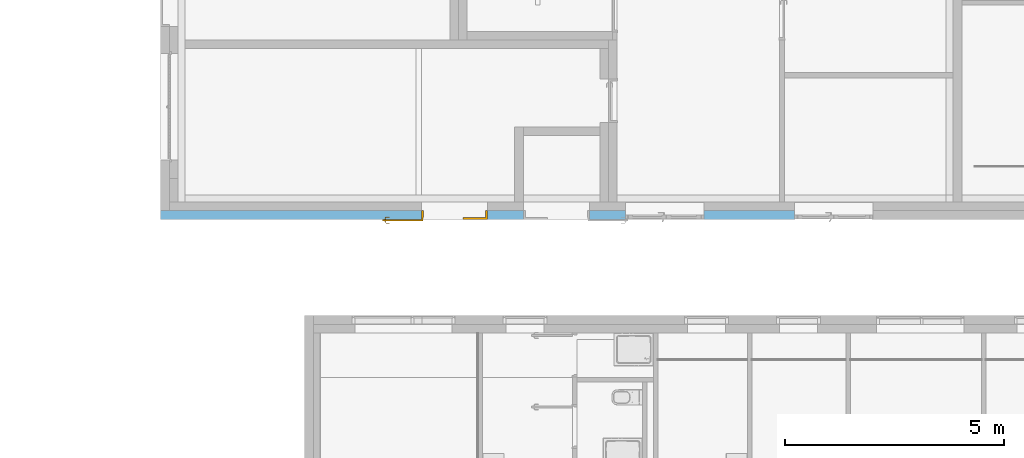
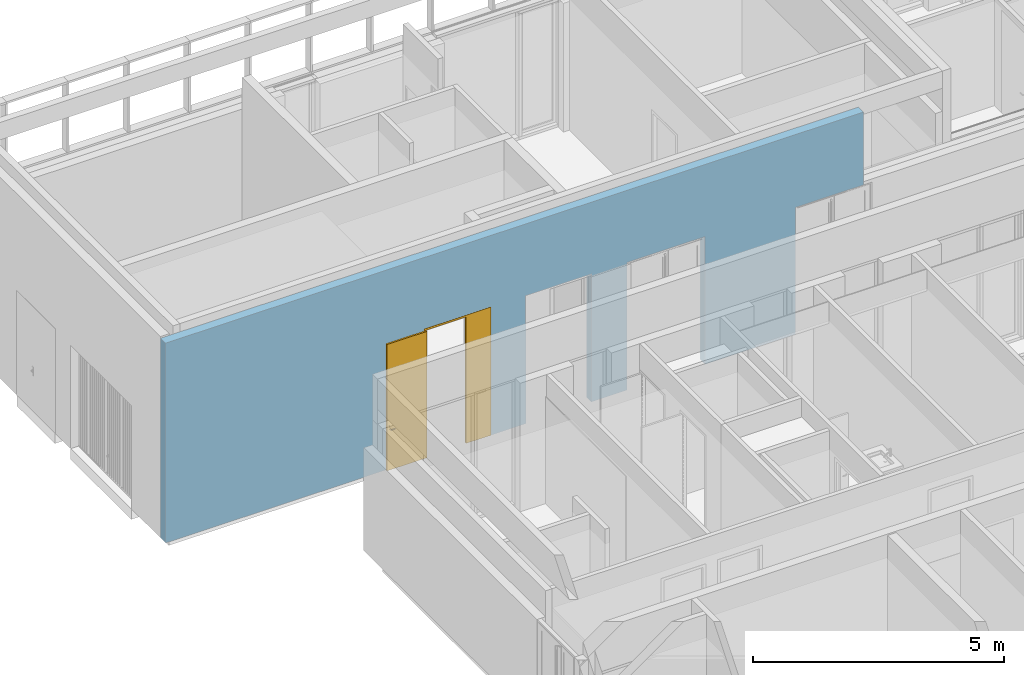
# One storey, part 206 of 240: 1 door, 10 openings, plus 1 element that does not belong to this part.
"""IFC2X3 building model written with IfcOpenShell, lengths in centimetres."""

from ifc_helpers import new_model, entity, si_unit, converted_unit, derived_unit, direction, frame, frame_2d, origin, place, context, subcontext, project, spatial, rectangle, extrude, faceted_brep, source, transform, mapped, material, material_list, layer, layer_set, layer_usage, type_object, type_shapes, element, fill, save


model = new_model("IFC2X3")

# Units and contexts
model_context = context("Model", 3, precision=0.001, world=origin(), true_north=direction((6.12303176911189e-17, 1.0)))
body_context = subcontext(model_context, "Body", "Model", "MODEL_VIEW")
ifc_project = project(units=[si_unit("LENGTHUNIT", "METRE", prefix="CENTI"), si_unit("AREAUNIT", "SQUARE_METRE"), si_unit("VOLUMEUNIT", "CUBIC_METRE"), converted_unit("PLANEANGLEUNIT", "DEGREE", entity("IfcRatioMeasure", 0.0174532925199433), si_unit("PLANEANGLEUNIT", "RADIAN"), dimensions=[0, 0, 0, 0, 0, 0, 0]), si_unit("MASSUNIT", "GRAM", prefix="KILO"), derived_unit("MASSDENSITYUNIT", [(si_unit("MASSUNIT", "GRAM", prefix="KILO"), 1), (si_unit("LENGTHUNIT", "METRE"), -3)]), si_unit("TIMEUNIT", "SECOND"), si_unit("FREQUENCYUNIT", "HERTZ"), si_unit("THERMODYNAMICTEMPERATUREUNIT", "DEGREE_CELSIUS"), derived_unit("THERMALTRANSMITTANCEUNIT", [(si_unit("MASSUNIT", "GRAM", prefix="KILO"), 1), (si_unit("THERMODYNAMICTEMPERATUREUNIT", "KELVIN"), -1), (si_unit("TIMEUNIT", "SECOND"), -3)]), derived_unit("VOLUMETRICFLOWRATEUNIT", [(si_unit("LENGTHUNIT", "METRE"), 3), (si_unit("TIMEUNIT", "SECOND"), -1)]), si_unit("ELECTRICCURRENTUNIT", "AMPERE"), si_unit("ELECTRICVOLTAGEUNIT", "VOLT"), si_unit("POWERUNIT", "WATT"), si_unit("FORCEUNIT", "NEWTON", prefix="KILO"), si_unit("ILLUMINANCEUNIT", "LUX"), si_unit("LUMINOUSFLUXUNIT", "LUMEN"), si_unit("LUMINOUSINTENSITYUNIT", "CANDELA"), derived_unit("USERDEFINED", [(si_unit("MASSUNIT", "GRAM", prefix="KILO"), -1), (si_unit("LENGTHUNIT", "METRE"), -2), (si_unit("TIMEUNIT", "SECOND"), 3), (si_unit("LUMINOUSFLUXUNIT", "LUMEN"), 1)]), derived_unit("LINEARVELOCITYUNIT", [(si_unit("LENGTHUNIT", "METRE"), 1), (si_unit("TIMEUNIT", "SECOND"), -1)]), si_unit("PRESSUREUNIT", "PASCAL"), derived_unit("USERDEFINED", [(si_unit("LENGTHUNIT", "METRE"), -2), (si_unit("MASSUNIT", "GRAM", prefix="KILO"), 1), (si_unit("TIMEUNIT", "SECOND"), -2)])], contexts=[model_context])

# Site, building, storey
site_placement = place(None, frame((-2781.94577612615, 7442.24238424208, 0.0)))
site = spatial("IfcSite", under=ifc_project, at=site_placement, Name="Default", CompositionType="ELEMENT")
building_placement = place(site_placement, origin())
building = spatial("IfcBuilding", under=site, at=building_placement, CompositionType="ELEMENT")
storey_placement = place(building_placement, origin())
storey = spatial("IfcBuildingStorey", under=building, at=storey_placement, Name="N00 - COO", CompositionType="ELEMENT", Elevation=0.0)

# Wall, openings, door
ifc_material_1 = material(Name="Aluminium bardage")
ifc_layer_1 = layer(ifc_material_1, 0.5)
ifc_material_2 = material(Name="01 - Lame d'air")
ifc_layer_2 = layer(ifc_material_2, 1.5)
ifc_material_3 = material(Name="00 - Isolant")
ifc_layer_3 = layer(ifc_material_3, 18.0)
ifc_layer_set = layer_set([ifc_layer_1, ifc_layer_2, ifc_layer_3], Name="Mur de base:04 - Parement - ITE 18cm + vide 2cm")
ifc_layer_usage = layer_usage(ifc_layer_set, "AXIS2", "POSITIVE", -10.0)
wall_type = type_object("IfcWallType", Name="Mur de base:04 - Parement - ITE 18cm + vide 2cm", PredefinedType="STANDARD", material=ifc_layer_set)
wall_placement = place(building_placement, frame((-11230.6616968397, -840.048500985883, 0.0)))
wall = element("IfcWallStandardCase", 1, at=wall_placement, inside=storey, type_object=wall_type, material=ifc_layer_usage, Name="Mur de base:04 - Parement - ITE 18cm + vide 2cm", ObjectType="Mur de base:04 - Parement - ITE 18cm + vide 2cm", context=body_context, shape_type="SweptSolid", body=[
    extrude(rectangle(XDim=1606.16181917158, YDim=20.0, at=frame_2d((803.080909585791, 2.04281036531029e-14), x_axis=(-1.0, 0.0))), origin(), (0.0, 0.0, 1.0), 486.0),
])
opening_1_placement = place(wall_placement, origin())
element("IfcOpeningElement", 2, at=opening_1_placement, cuts=wall, Name="Mur de base:04 - Parement - ITE 18cm + vide 2cm", ObjectType="Opening", context=body_context, shape_type="SweptSolid", body=[
    extrude(rectangle(XDim=310.999999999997, YDim=99.9999999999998, at=frame_2d((-8.66862137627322e-13, 0.0), x_axis=(0.0, 1.0))), frame((2089.66181923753, -25.24, 155.499999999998), z_axis=(0.0, 1.0, 0.0), x_axis=(-1.0, 0.0, 0.0)), (0.0, 0.0, 1.0), 50.48),
])
opening_2_placement = place(wall_placement, origin())
element("IfcOpeningElement", 3, at=opening_2_placement, cuts=wall, Name="Mur de base:04 - Parement - ITE 18cm + vide 2cm", ObjectType="Opening", context=body_context, shape_type="SweptSolid", body=[
    extrude(rectangle(XDim=224.0, YDim=91.9999999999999, at=frame_2d((2.1316282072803e-14, 0.0), x_axis=(1.0, 0.0))), frame((2591.66181917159, -142.4, 197.700000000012), z_axis=(0.0, 1.0, 0.0), x_axis=(0.0, 0.0, 1.0)), (0.0, 0.0, 1.0), 304.8),
])
opening_3_placement = place(wall_placement, origin())
element("IfcOpeningElement", 4, at=opening_3_placement, cuts=wall, Name="Mur de base:04 - Parement - ITE 18cm + vide 2cm", ObjectType="Opening", context=body_context, shape_type="SweptSolid", body=[
    extrude(rectangle(XDim=316.500000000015, YDim=99.9999999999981, at=frame_2d((0.0, 0.0), x_axis=(0.0, 1.0))), frame((2591.7151206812, -25.2399999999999, 158.250000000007), z_axis=(0.0, 1.0, 0.0), x_axis=(-1.0, 0.0, 0.0)), (0.0, 0.0, 1.0), 50.48),
])
opening_4_placement = place(wall_placement, origin())
element("IfcOpeningElement", 5, at=opening_4_placement, cuts=wall, Name="Mur de base:04 - Parement - ITE 18cm + vide 2cm", ObjectType="Opening", context=body_context, shape_type="SweptSolid", body=[
    extrude(rectangle(XDim=310.999999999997, YDim=99.9999999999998, at=frame_2d((-8.66862137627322e-13, 0.0), x_axis=(0.0, 1.0))), frame((2348.66181917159, -25.2400000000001, 155.499999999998), z_axis=(0.0, 1.0, 0.0), x_axis=(-1.0, 0.0, 0.0)), (0.0, 0.0, 1.0), 50.48),
])
opening_5_placement = place(wall_placement, origin())
element("IfcOpeningElement", 6, at=opening_5_placement, cuts=wall, Name="Mur de base:04 - Parement - ITE 18cm + vide 2cm", ObjectType="Opening", context=body_context, shape_type="SweptSolid", body=[
    extrude(rectangle(XDim=224.0, YDim=91.9999999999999, at=frame_2d((-7.105427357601e-15, 0.0), x_axis=(1.0, 0.0))), frame((2348.60851766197, -142.4, 192.0), z_axis=(0.0, 1.0, 0.0), x_axis=(0.0, 0.0, 1.0)), (0.0, 0.0, 1.0), 304.8),
])
opening_6_placement = place(wall_placement, origin())
element("IfcOpeningElement", 7, at=opening_6_placement, cuts=wall, Name="Mur de base:04 - Parement - ITE 18cm + vide 2cm", ObjectType="Opening", context=body_context, shape_type="SweptSolid", body=[
    extrude(rectangle(XDim=224.0, YDim=91.9999999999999, at=frame_2d((-7.105427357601e-15, 0.0), x_axis=(1.0, 0.0))), frame((2089.60851772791, -142.4, 192.0), z_axis=(0.0, 1.0, 0.0), x_axis=(0.0, 0.0, 1.0)), (0.0, 0.0, 1.0), 304.8),
])
opening_7_placement = place(wall_placement, frame((747.161819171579, 10.0, 0.0)))
opening_7 = element("IfcOpeningElement", 8, at=opening_7_placement, cuts=wall, Name="Int. Tierce:PP (1.80m x 3.11m):1", ObjectType="Opening", context=body_context, shape_type="SweptSolid", body=[
    extrude(rectangle(XDim=311.000000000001, YDim=151.0, at=frame_2d((155.500000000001, 75.5000000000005), x_axis=(1.0, 0.0))), frame((0.0, 0.0, 0.0), z_axis=(0.0, -1.0, 0.0), x_axis=(0.0, 0.0, 1.0)), (0.0, 0.0, 1.0), 20.0),
])
opening_8_placement = place(wall_placement, frame((11230.6616968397, 840.048500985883, 0.0)))
element("IfcOpeningElement", 9, at=opening_8_placement, cuts=wall, Name="Mur de base:04 - Parement - ITE 18cm + vide 2cm", ObjectType="Opening", context=body_context, shape_type="SweptSolid", body=[
    extrude(rectangle(XDim=326.0, YDim=179.999999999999, at=frame_2d((0.0, 8.66862137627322e-13), x_axis=(1.0, 0.0))), frame((-10078.6616968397, -850.148500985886, 148.0), z_axis=(0.0, 1.0, 0.0), x_axis=(0.0, 0.0, -1.0)), (0.0, 0.0, 1.0), 61.3),
])
opening_9_placement = place(wall_placement, frame((1448.16181917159, -10.1000000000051, -15.0)))
element("IfcOpeningElement", 10, at=opening_9_placement, cuts=wall, Name="Mur de base:04 - Parement - ITE 18cm + vide 2cm", ObjectType="Opening", context=body_context, shape_type="Brep", body=[
    faceted_brep([(178.0, 0.0, 324.0), (2.0, 0.0, 324.0), (2.0, 0.0, 0.0), (178.0, 0.0, 0.0), (178.0, 1.2999999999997, 0.0), (178.0, 1.29999999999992, 324.0), (2.0, 1.30000000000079, 0.0), (0.0, 1.30000000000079, 0.0), (0.0, 61.3000000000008, 0.0), (180.0, 61.2999999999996, 0.0), (180.0, 1.2999999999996, 0.0), (2.0, 1.30000000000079, 324.0), (0.0, 61.3000000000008, 326.0), (180.0, 61.2999999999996, 326.0), (0.0, 1.30000000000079, 326.0), (180.0, 1.2999999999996, 326.0)], [[[0, 1, 2, 3]], [[3, 4, 5, 0]], [[2, 6, 7, 8, 9, 10, 4, 3]], [[1, 11, 6, 2]], [[0, 5, 11, 1]], [[12, 13, 9, 8]], [[14, 7, 6, 11, 5, 4, 10, 15]], [[8, 7, 14, 12]], [[13, 15, 10, 9]], [[12, 14, 15, 13]]]),
])
opening_10_placement = place(wall_placement, frame((980.080909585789, 10.0, 0.0)))
element("IfcOpeningElement", 11, at=opening_10_placement, cuts=wall, Name="Int. Tierce:PP (1.80m x 3.11m):1", ObjectType="Opening", context=body_context, shape_type="SweptSolid", body=[
    extrude(rectangle(XDim=311.000000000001, YDim=151.0, at=frame_2d((155.500000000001, 75.4999999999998), x_axis=(1.0, 0.0))), frame((0.0, 0.0, 0.0), z_axis=(0.0, -1.0, 0.0), x_axis=(0.0, 0.0, 1.0)), (0.0, 0.0, 1.0), 20.0),
])
ifc_material_4 = material(Name="Finition Peinture - Blanc satiné")
ifc_material_5 = material(Name="Bois - Panneau de porte")
ifc_material_6 = material(Name="Bois - Cadre de porte")
ifc_material_list_1 = material_list([ifc_material_4, ifc_material_5, ifc_material_6])
ifc_material_list_2 = material_list([ifc_material_4, ifc_material_5, ifc_material_6])
door_style = type_object("IfcDoorStyle", Name="PP (1.80m x 3.11m)", ConstructionType="NOTDEFINED", OperationType="DOUBLE_DOOR_SINGLE_SWING", ParameterTakesPrecedence=False, Sizeable=False, material=ifc_material_list_2)
shared_shape = source(origin(), body_context, "Body", "Brep", [
    faceted_brep([(-84.4999999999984, 0.499999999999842, 87.0), (-84.4999999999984, 0.499999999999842, 108.0), (-83.5352761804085, 0.499999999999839, 108.399601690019), (-82.4999999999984, 0.499999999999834, 108.535898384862), (-81.4647238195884, 0.49999999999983, 108.399601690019), (-80.4999999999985, 0.499999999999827, 108.0), (-80.4999999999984, 0.499999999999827, 87.0), (-81.4647238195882, 0.49999999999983, 86.6003983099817), (-82.4999999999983, 0.499999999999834, 86.464101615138), (-83.5352761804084, 0.499999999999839, 86.6003983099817), (-84.4999999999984, 0.0, 108.0), (-84.4999999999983, 0.0, 87.0), (-83.5352761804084, 0.0, 86.6003983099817), (-82.4999999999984, 0.0, 86.464101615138), (-81.4647238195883, 0.0, 86.6003983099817), (-80.4999999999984, 0.0, 87.0), (-80.4999999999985, 0.0, 108.0), (-81.4647238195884, 0.0, 108.399601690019), (-82.4999999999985, 0.0, 108.535898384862), (-83.5352761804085, 0.0, 108.399601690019)], [[[0, 1, 2, 3, 4, 5, 6, 7, 8, 9]], [[10, 11, 12, 13, 14, 15, 16, 17, 18, 19]], [[9, 12, 11, 0]], [[8, 13, 12, 9]], [[7, 14, 13, 8]], [[7, 6, 15, 14]], [[15, 6, 5, 16]], [[4, 17, 16, 5]], [[3, 18, 17, 4]], [[2, 19, 18, 3]], [[2, 1, 10, 19]], [[11, 10, 1, 0]]]),
    faceted_brep([(-84.4999999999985, -4.0, 87.0), (-84.4999999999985, -4.0, 108.0), (-83.5352761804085, -4.0, 108.399601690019), (-82.4999999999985, -4.0, 108.535898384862), (-81.4647238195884, -4.0, 108.399601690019), (-80.4999999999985, -4.0, 108.0), (-80.4999999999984, -4.0, 87.0), (-81.4647238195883, -4.0, 86.6003983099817), (-82.4999999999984, -4.0, 86.464101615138), (-83.5352761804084, -4.0, 86.6003983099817), (-82.4999999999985, -4.50000000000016, 108.535898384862), (-83.5352761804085, -4.50000000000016, 108.399601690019), (-84.4999999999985, -4.50000000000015, 108.0), (-84.4999999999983, -4.50000000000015, 87.0), (-83.5352761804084, -4.50000000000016, 86.6003983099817), (-82.4999999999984, -4.50000000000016, 86.464101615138), (-81.4647238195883, -4.50000000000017, 86.6003983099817), (-80.4999999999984, -4.50000000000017, 87.0), (-80.4999999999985, -4.50000000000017, 108.0), (-81.4647238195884, -4.50000000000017, 108.399601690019)], [[[0, 1, 2, 3, 4, 5, 6, 7, 8, 9]], [[10, 11, 12, 13, 14, 15, 16, 17, 18, 19]], [[4, 19, 18, 5]], [[3, 10, 19, 4]], [[2, 11, 10, 3]], [[2, 1, 12, 11]], [[13, 12, 1, 0]], [[9, 14, 13, 0]], [[8, 15, 14, 9]], [[7, 16, 15, 8]], [[7, 6, 17, 16]], [[17, 6, 5, 18]]]),
    faceted_brep([(-82.2974701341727, 0.499999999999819, 100.778044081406), (-82.7025298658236, 0.499999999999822, 100.778044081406), (-83.1000000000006, 0.499999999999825, 100.699999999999), (-83.1000000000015, 0.499999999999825, 99.2999999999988), (-82.7025298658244, 0.499999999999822, 99.221955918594), (-82.2974701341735, 0.499999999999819, 99.2219559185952), (-81.8999999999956, 0.499999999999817, 99.3000000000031), (-81.8999999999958, 0.499999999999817, 100.7), (-82.7025298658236, 3.10045754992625, 100.778044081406), (-83.1000000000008, 3.26509507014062, 100.7), (-82.2974701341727, 2.93267631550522, 100.778044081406), (-80.9298602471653, 4.30028620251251, 100.778044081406), (-81.0976414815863, 4.70534593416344, 100.778044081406), (-81.8999999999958, 2.76803879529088, 100.7), (-81.8999999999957, 2.76803879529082, 99.3000000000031), (-82.2974701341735, 2.93267631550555, 99.2219559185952), (-82.7025298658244, 3.10045754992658, 99.221955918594), (-81.0976414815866, 4.70534593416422, 99.221955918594), (-80.9298602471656, 4.3002862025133, 99.2219559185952), (-83.1000000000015, 3.26509507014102, 99.2999999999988), (-81.2622790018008, 5.10281606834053, 100.7), (-80.765222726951, 3.90281606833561, 100.7), (-80.7652227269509, 3.90281606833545, 99.3000000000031), (-81.262279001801, 5.10281606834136, 99.2999999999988), (-72.4981359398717, 5.10281606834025, 100.7), (-72.4981359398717, 4.70534593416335, 100.778044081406), (-72.4981359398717, 4.30028620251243, 100.778044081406), (-72.4981359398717, 3.90281606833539, 100.699999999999), (-72.4981359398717, 3.90281606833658, 99.3000000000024), (-72.4981359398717, 4.30028620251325, 99.2219559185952), (-72.4981359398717, 4.70534593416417, 99.221955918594), (-72.4981359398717, 5.10281606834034, 99.2999999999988), (-76.71399809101, 4.50281606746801, 100.78786867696), (-77.2692302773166, 5.10281606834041, 100.7), (-76.6316793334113, 3.90281606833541, 100.7), (-76.6316793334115, 3.90281606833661, 99.3000000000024), (-76.7139981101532, 4.50281607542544, 99.2121313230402), (-77.2692310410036, 5.10281606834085, 99.2999999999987)], [[[0, 1, 2, 3, 4, 5, 6, 7]], [[2, 1, 8, 9]], [[1, 0, 10, 11, 12, 8]], [[0, 7, 13, 10]], [[14, 13, 7, 6]], [[5, 15, 14, 6]], [[5, 4, 16, 17, 18, 15]], [[3, 19, 16, 4]], [[9, 19, 3, 2]], [[9, 8, 12, 20]], [[10, 13, 21, 11]], [[22, 21, 13, 14]], [[14, 15, 18, 22]], [[16, 19, 23, 17]], [[20, 23, 19, 9]], [[24, 25, 26, 27, 28, 29, 30, 31]], [[32, 25, 33]], [[33, 25, 24]], [[33, 20, 12]], [[11, 34, 32]], [[34, 11, 21]], [[27, 26, 34]], [[32, 26, 25]], [[32, 34, 26]], [[32, 33, 12]], [[11, 32, 12]], [[21, 22, 35, 28, 27, 34]], [[36, 29, 35]], [[30, 36, 37]], [[18, 35, 22]], [[29, 28, 35]], [[30, 37, 31]], [[37, 17, 23]], [[36, 17, 37]], [[36, 18, 17]], [[36, 35, 18]], [[29, 36, 30]], [[23, 20, 33, 24, 31, 37]]]),
    faceted_brep([(-82.2974701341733, -4.50000000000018, 99.2219559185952), (-82.7025298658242, -4.50000000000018, 99.221955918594), (-83.1000000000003, -4.50000000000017, 99.2999999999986), (-83.1000000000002, -4.50000000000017, 100.7), (-82.7025298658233, -4.50000000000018, 100.778044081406), (-82.2974701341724, -4.50000000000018, 100.778044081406), (-81.8999999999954, -4.50000000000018, 100.7), (-81.8999999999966, -4.50000000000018, 99.3000000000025), (-81.8999999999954, -6.74852045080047, 100.7), (-81.8999999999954, -6.74852045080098, 99.3000000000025), (-82.2974701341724, -6.91315797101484, 100.778044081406), (-82.7025298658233, -7.08093920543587, 100.778044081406), (-81.0838906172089, -8.69957845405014, 100.778044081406), (-80.9161093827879, -8.29451872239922, 100.778044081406), (-83.1000000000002, -7.2455767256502, 100.7), (-83.1000000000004, -7.24557672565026, 99.2999999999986), (-82.7025298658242, -7.08093920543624, 99.221955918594), (-82.2974701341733, -6.91315797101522, 99.2219559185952), (-80.9161093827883, -8.29451872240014, 99.2219559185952), (-81.0838906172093, -8.69957845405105, 99.221955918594), (-80.7514718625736, -7.89704858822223, 100.7), (-80.7514718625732, -7.89704858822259, 99.3000000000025), (-81.2485281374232, -9.09704858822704, 100.7), (-81.2485281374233, -9.09704858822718, 99.2999999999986), (-72.495421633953, -8.29451872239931, 100.778044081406), (-72.495421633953, -8.69957845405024, 100.778044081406), (-72.495421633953, -9.09704858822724, 100.7), (-72.495421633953, -9.09704858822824, 99.2999999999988), (-72.495421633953, -8.69957845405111, 99.221955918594), (-72.495421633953, -8.29451872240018, 99.2219559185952), (-72.495421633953, -7.89704858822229, 99.3000000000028), (-72.495421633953, -7.89704858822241, 100.7), (-76.6234467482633, -7.89704858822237, 100.7), (-76.6234479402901, -7.89704858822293, 99.3000000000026), (-76.705765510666, -8.49704858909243, 100.78786867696), (-77.2554794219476, -9.09704858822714, 100.7), (-77.2554795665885, -9.09704858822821, 99.2999999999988), (-76.7057654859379, -8.49704858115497, 99.2121313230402)], [[[0, 1, 2, 3, 4, 5, 6, 7]], [[8, 9, 7, 6]], [[5, 10, 8, 6]], [[5, 4, 11, 12, 13, 10]], [[3, 14, 11, 4]], [[14, 3, 2, 15]], [[2, 1, 16, 15]], [[1, 0, 17, 18, 19, 16]], [[0, 7, 9, 17]], [[20, 21, 9, 8]], [[8, 10, 13, 20]], [[14, 22, 12, 11]], [[23, 22, 14, 15]], [[15, 16, 19, 23]], [[17, 9, 21, 18]], [[24, 25, 26, 27, 28, 29, 30, 31]], [[21, 20, 32, 31, 30, 33]], [[34, 24, 32]], [[25, 34, 35]], [[13, 32, 20]], [[24, 31, 32]], [[25, 35, 26]], [[35, 12, 22]], [[34, 12, 35]], [[34, 13, 12]], [[34, 32, 13]], [[24, 34, 25]], [[22, 23, 36, 27, 26, 35]], [[37, 28, 36]], [[36, 28, 27]], [[36, 23, 19]], [[18, 33, 37]], [[33, 18, 21]], [[30, 29, 33]], [[37, 29, 28]], [[37, 33, 29]], [[37, 36, 19]], [[18, 37, 19]]]),
    faceted_brep([(-88.4999999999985, -4.0, 307.5), (-88.4999999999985, -4.0, 0.0), (3.50000000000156, -4.0, 0.0), (3.50000000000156, -4.0, 307.5), (-88.4999999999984, 0.0, 307.5), (3.50000000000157, 0.0, 307.5), (3.50000000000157, 0.0, 0.0), (-88.4999999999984, 0.0, 0.0)], [[[0, 1, 2, 3]], [[4, 5, 6, 7]], [[3, 5, 4, 0]], [[2, 6, 5, 3]], [[1, 7, 6, 2]], [[0, 4, 7, 1]]]),
    faceted_brep([(0.0, 0.0, 0.0), (0.0, 20.0, 0.0), (5.0, 20.0, 0.0), (5.0, 4.0, 0.0), (3.50000000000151, 4.0, 0.0), (3.50000000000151, 0.0, 0.0), (0.0, 0.0, 311.0), (0.0, 20.0, 311.0), (151.0, 20.0, 311.0), (151.0, 20.0, 0.0), (146.0, 20.0, 0.0), (146.0, 20.0, 306.0), (5.0, 20.0, 306.0), (5.0, 4.0, 306.0), (146.0, 4.0, 306.0), (146.0, 4.0, 0.0), (147.499999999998, 4.0, 0.0), (147.499999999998, 4.0, 307.5), (3.50000000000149, 4.0, 307.5), (3.50000000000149, 0.0, 307.5), (147.499999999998, 0.0, 307.5), (147.499999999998, 0.0, 0.0), (151.0, 0.0, 0.0), (151.0, 0.0, 311.0)], [[[0, 1, 2, 3, 4, 5]], [[1, 0, 6, 7]], [[2, 1, 7, 8, 9, 10, 11, 12]], [[3, 2, 12, 13]], [[4, 3, 13, 14, 15, 16, 17, 18]], [[5, 4, 18, 19]], [[0, 5, 19, 20, 21, 22, 23, 6]], [[8, 23, 22, 9]], [[22, 21, 16, 15, 10, 9]], [[14, 11, 10, 15]], [[20, 17, 16, 21]], [[7, 6, 23, 8]], [[13, 12, 11, 14]], [[19, 18, 17, 20]]]),
    faceted_brep([(147.500000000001, 0.0, 307.5), (147.500000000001, 4.0, 307.5), (95.5000000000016, 4.0, 307.5), (95.5000000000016, 0.0, 307.5), (147.500000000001, 0.0, 0.0), (95.5000000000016, 0.0, 0.0), (95.5000000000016, 4.0, 0.0), (147.500000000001, 4.0, 0.0)], [[[0, 1, 2, 3]], [[4, 5, 6, 7]], [[1, 0, 4, 7]], [[2, 1, 7, 6]], [[3, 2, 6, 5]], [[0, 3, 5, 4]]]),
    faceted_brep([(1.50000000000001, 20.0, 0.0), (-1.49999999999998, 20.0, 0.0), (-1.49999999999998, 20.5000000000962, 0.0), (1.50000000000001, 20.5000000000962, 0.0), (1.5, 20.0, 309.500000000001), (149.5, 20.0, 309.500000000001), (149.5, 20.0, 0.0), (152.5, 20.0, 0.0), (152.5, 20.0, 312.500000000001), (-1.49999999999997, 20.0, 312.500000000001), (-1.49999999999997, 20.5000000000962, 312.500000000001), (152.5, 20.5000000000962, 312.500000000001), (152.5, 20.5000000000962, 0.0), (149.5, 20.5000000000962, 0.0), (149.5, 20.5000000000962, 309.500000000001), (1.5, 20.5000000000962, 309.500000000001)], [[[0, 1, 2, 3]], [[1, 0, 4, 5, 6, 7, 8, 9]], [[2, 1, 9, 10]], [[3, 2, 10, 11, 12, 13, 14, 15]], [[0, 3, 15, 4]], [[6, 13, 12, 7]], [[5, 14, 13, 6]], [[11, 8, 7, 12]], [[4, 15, 14, 5]], [[10, 9, 8, 11]]]),
    faceted_brep([(-1.49999999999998, -0.500000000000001, 0.0), (1.50000000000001, -0.500000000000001, 0.0), (1.5, -0.500000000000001, 309.500000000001), (149.5, -0.500000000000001, 309.500000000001), (149.5, -0.500000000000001, 0.0), (152.5, -0.500000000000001, 0.0), (152.5, -0.500000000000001, 312.500000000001), (-1.49999999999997, -0.500000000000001, 312.500000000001), (-1.49999999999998, 0.0, 0.0), (-1.49999999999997, 0.0, 312.500000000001), (1.50000000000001, 0.0, 0.0), (152.5, 0.0, 312.500000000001), (152.5, 0.0, 0.0), (149.5, 0.0, 0.0), (149.5, 0.0, 309.500000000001), (1.5, 0.0, 309.500000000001)], [[[0, 1, 2, 3, 4, 5, 6, 7]], [[8, 0, 7, 9]], [[10, 8, 9, 11, 12, 13, 14, 15]], [[1, 10, 15, 2]], [[3, 14, 13, 4]], [[11, 6, 5, 12]], [[2, 15, 14, 3]], [[9, 7, 6, 11]], [[4, 13, 12, 5]], [[1, 0, 8, 10]]]),
])
type_shapes(door_style, [shared_shape])
door_placement = place(opening_7_placement, frame((-151.0, -20.0, 0.0)))
door = element("IfcDoor", 12, at=door_placement, inside=storey, type_object=door_style, material=ifc_material_list_1, Name="Int. Tierce:PP (1.80m x 3.11m)", ObjectType="Int. Tierce:PP (1.80m x 3.11m)", OverallHeight=311.000000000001, OverallWidth=151.0, context=body_context, shape_type="MappedRepresentation", body=[
    mapped(shared_shape, transform((0.0, 0.0, 0.0), scale=1.0)),
])
fill(opening_7, door)

save(model, "model.ifc")
